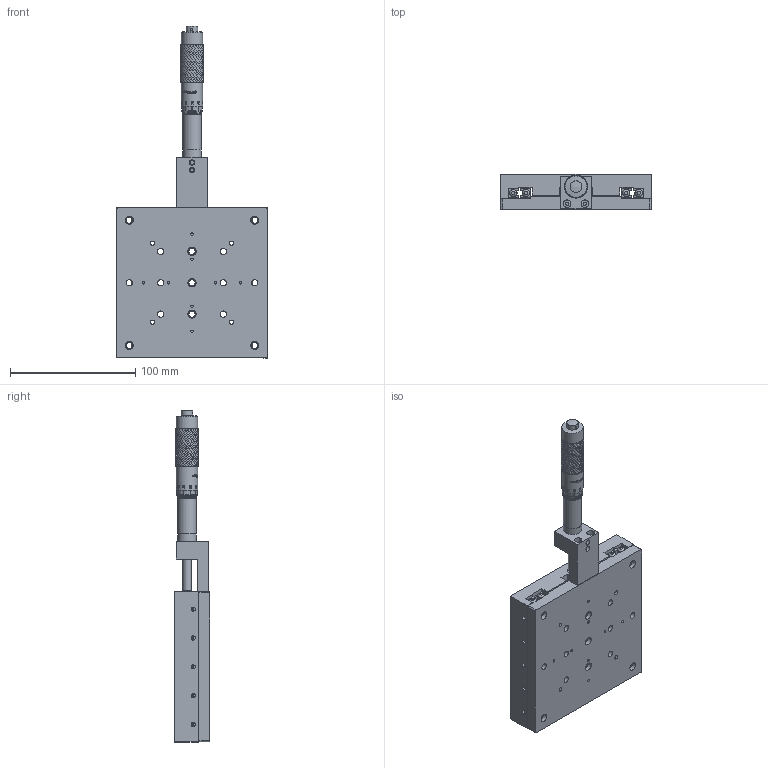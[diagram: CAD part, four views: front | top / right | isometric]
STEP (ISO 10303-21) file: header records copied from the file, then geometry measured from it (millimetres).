
FILE_DESCRIPTION (( 'STEP AP203' ), '1' );
FILE_NAME ('TCS120X-2.step', '2017-01-10T09:16:15', ( '¦K¬P' ), ( '' ), 'SwSTEP 2.0', 'SolidWorks 2012', '' );
FILE_SCHEMA (( 'CONFIG_CONTROL_DESIGN' ));
Products named in the file (1): TCS120X-2
Bounding box: 120 x 28 x 264.87 mm (x, y, z)
Surface area: 110668.2 mm2 (no closed solid volume)
Topology: 0 solids, 151 shells, 1968 faces, 9074 edges, 6688 vertices
Faces by surface type: cylinder 925, bspline 796, plane 223, cone 15, torus 8, sphere 1
Full cylindrical faces by diameter (mm): 1.5 x1, 2 x14, 2.5 x3, 3.3 x21, 4.5 x2, 5 x45, 6 x2, 6.5 x8, 9.3 x1, 9.5 x1, 11 x9, 14.5 x1, 15.2 x1, 17 x2
Entity records: 195549 total; most frequent: CARTESIAN_POINT 144322, ORIENTED_EDGE 13521, EDGE_CURVE 8922, VERTEX_POINT 6668, DIRECTION 5184, B_SPLINE_CURVE_WITH_KNOTS 3505, EDGE_LOOP 2443, FACE_OUTER_BOUND 2016
